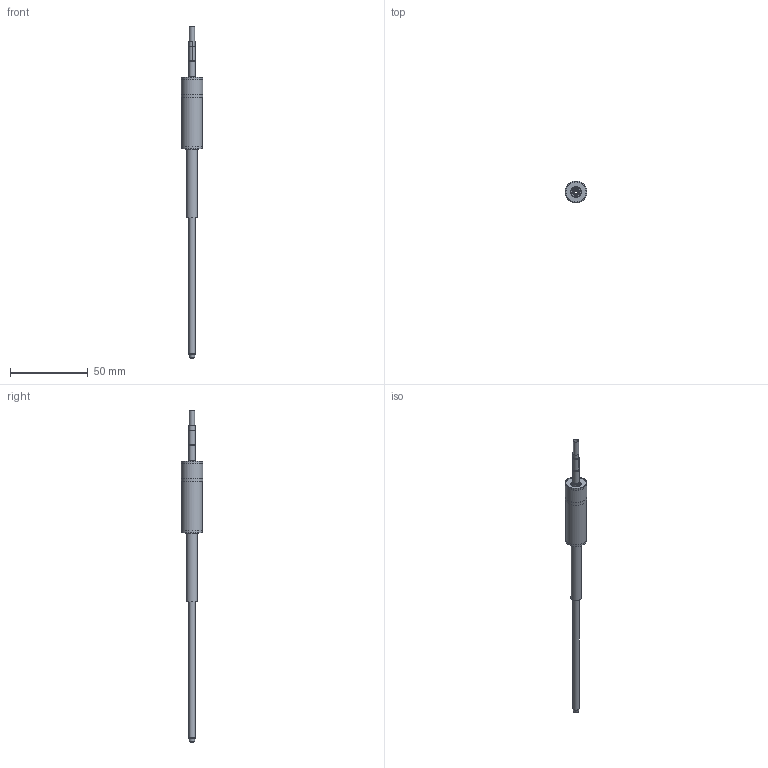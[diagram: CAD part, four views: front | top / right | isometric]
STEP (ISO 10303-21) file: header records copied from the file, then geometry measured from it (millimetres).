
FILE_DESCRIPTION(('STEP AP214'),'1');
FILE_NAME('LC-04200.stp','2025-10-28T13:23:10',(' '),(' '),'Spatial InterOp 3D',' ',' ');
FILE_SCHEMA(('AUTOMOTIVE_DESIGN { 1 0 10303 214 1 1 1 1 }'));
Length unit declared in the file: metre
Products named in the file (6): LC-04SU-SEDE; LC-04SU; LC-04P200-SEDE; LC-04P200
Bounding box: 14 x 14 x 212.93 mm (x, y, z)
Volume: 7078.2 mm3; surface area: 10413.4 mm2
Topology: 2 solids, 6 shells, 51 faces, 111 edges, 76 vertices
Faces by surface type: plane 24, cylinder 15, cone 9, torus 2, sphere 1
Full cylindrical faces by diameter (mm): 2 x1, 3.3 x1, 3.8 x1, 4 x3, 4.5 x1, 7 x1, 7.02 x1, 8.5 x1, 12.9 x1, 13 x1, 14 x1
Entity records: 2110 total; most frequent: CARTESIAN_POINT 265, DIRECTION 230, ORIENTED_EDGE 140, STYLED_ITEM 116, PRESENTATION_STYLE_ASSIGNMENT 116, COLOUR_RGB 116, AXIS2_PLACEMENT_3D 103, EDGE_LOOP 90
